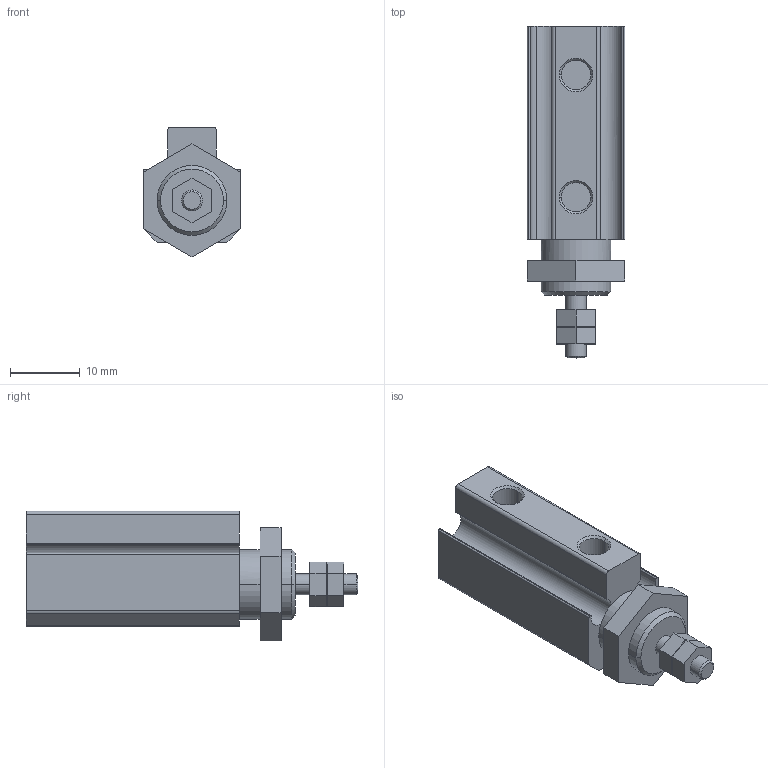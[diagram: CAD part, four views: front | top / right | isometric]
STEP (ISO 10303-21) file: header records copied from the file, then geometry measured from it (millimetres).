
FILE_DESCRIPTION((''),'2;1');
FILE_NAME('B:\CHANTO-3D-已完成\NEW\AAP\AAP-3D\AAP06X5.stp','2010-08-19T19:37:16',('Administrator'),(''),'Autodesk Inventor 8','Autodesk Inventor 8','');
FILE_SCHEMA(('AUTOMOTIVE_DESIGN { 1 0 10303 214 1 1 1 1 }'));
Length unit declared in the file: millimetre
Products named in the file (1): AAP06X5
Bounding box: 14 x 47.5 x 18.58 mm (x, y, z)
Volume: 5960.3 mm3; surface area: 3217.4 mm2
Topology: 1 solids, 1 shells, 81 faces, 198 edges, 128 vertices
Faces by surface type: plane 43, cylinder 30, cone 8
Entity records: 2415 total; most frequent: DIRECTION 438, CARTESIAN_POINT 408, ORIENTED_EDGE 396, EDGE_CURVE 198, AXIS2_PLACEMENT_3D 158, VERTEX_POINT 128, VECTOR 122, LINE 122
